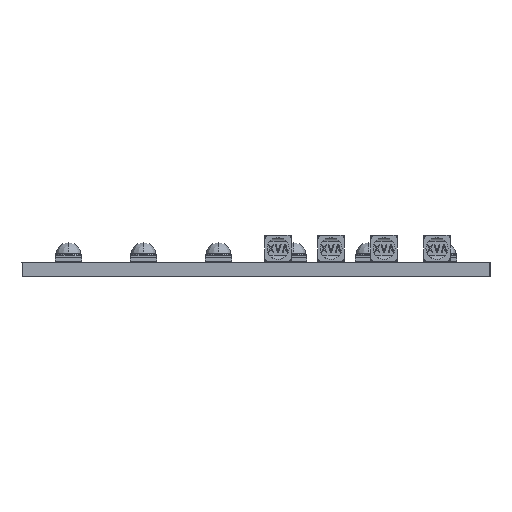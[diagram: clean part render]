
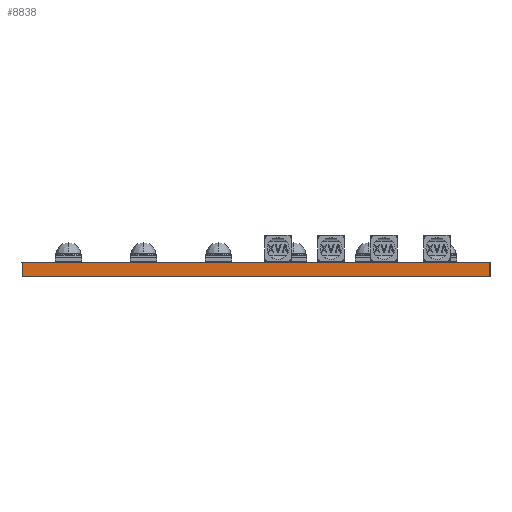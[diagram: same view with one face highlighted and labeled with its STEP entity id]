
A CAD part, left-side view. The second image highlights one B-rep face of the part: STEP entity #8838.
In plain terms, the highlighted planar face has unit normal (-1, 0, 0).
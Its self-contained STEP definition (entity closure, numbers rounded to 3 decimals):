
#3354=CARTESIAN_POINT('Line Origine',(0.,26.5,0.)) ;
#3358=CARTESIAN_POINT('Vertex',(0.,0.,0.)) ;
#3360=CARTESIAN_POINT('Vertex',(0.,53.,0.)) ;
#5414=CARTESIAN_POINT('Vertex',(0.,53.,-1.6)) ;
#5475=CARTESIAN_POINT('Vertex',(0.,0.,-1.6)) ;
#5478=CARTESIAN_POINT('Line Origine',(0.,26.5,-1.6)) ;
#5482=CARTESIAN_POINT('Vertex',(0.,31.6,-1.6)) ;
#5520=CARTESIAN_POINT('Vertex',(0.,41.6,-1.6)) ;
#5523=CARTESIAN_POINT('Line Origine',(0.,26.5,-1.6)) ;
#8794=CARTESIAN_POINT('Axis2P3D Location',(0.,41.6,-1.5)) ;
#8799=CARTESIAN_POINT('Line Origine',(0.,41.6,-1.575)) ;
#8803=CARTESIAN_POINT('Vertex',(0.,41.6,-1.55)) ;
#8806=CARTESIAN_POINT('Line Origine',(0.,36.6,-1.55)) ;
#8810=CARTESIAN_POINT('Vertex',(0.,31.6,-1.55)) ;
#8813=CARTESIAN_POINT('Line Origine',(0.,31.6,-1.575)) ;
#8818=CARTESIAN_POINT('Line Origine',(0.,0.,-0.8)) ;
#8823=CARTESIAN_POINT('Line Origine',(0.,53.,-0.8)) ;
#3356=VECTOR('Line Direction',#3355,1.) ;
#5480=VECTOR('Line Direction',#5479,1.) ;
#5525=VECTOR('Line Direction',#5524,1.) ;
#8801=VECTOR('Line Direction',#8800,1.) ;
#8808=VECTOR('Line Direction',#8807,1.) ;
#8815=VECTOR('Line Direction',#8814,1.) ;
#8820=VECTOR('Line Direction',#8819,1.) ;
#8825=VECTOR('Line Direction',#8824,1.) ;
#3355=DIRECTION('Vector Direction',(0.,1.,0.)) ;
#5479=DIRECTION('Vector Direction',(0.,1.,0.)) ;
#5524=DIRECTION('Vector Direction',(0.,1.,0.)) ;
#8795=DIRECTION('Axis2P3D Direction',(1.,0.,-0.)) ;
#8796=DIRECTION('Axis2P3D XDirection',(0.,1.,0.)) ;
#8800=DIRECTION('Vector Direction',(0.,0.,1.)) ;
#8807=DIRECTION('Vector Direction',(0.,-1.,0.)) ;
#8814=DIRECTION('Vector Direction',(0.,0.,1.)) ;
#8819=DIRECTION('Vector Direction',(0.,0.,1.)) ;
#8824=DIRECTION('Vector Direction',(0.,0.,1.)) ;
#8797=AXIS2_PLACEMENT_3D('Plane Axis2P3D',#8794,#8795,#8796) ;
#3357=LINE('Line',#3354,#3356) ;
#5481=LINE('Line',#5478,#5480) ;
#5526=LINE('Line',#5523,#5525) ;
#8802=LINE('Line',#8799,#8801) ;
#8809=LINE('Line',#8806,#8808) ;
#8816=LINE('Line',#8813,#8815) ;
#8821=LINE('Line',#8818,#8820) ;
#8826=LINE('Line',#8823,#8825) ;
#8798=PLANE('',#8797) ;
#3362=EDGE_CURVE('',#3359,#3361,#3357,.T.) ;
#5484=EDGE_CURVE('',#5483,#5476,#5481,.F.) ;
#5527=EDGE_CURVE('',#5415,#5521,#5526,.F.) ;
#8805=EDGE_CURVE('',#5521,#8804,#8802,.T.) ;
#8812=EDGE_CURVE('',#8804,#8811,#8809,.T.) ;
#8817=EDGE_CURVE('',#5483,#8811,#8816,.T.) ;
#8822=EDGE_CURVE('',#5476,#3359,#8821,.T.) ;
#8827=EDGE_CURVE('',#5415,#3361,#8826,.T.) ;
#8828=EDGE_LOOP('',(#8829,#8830,#8831,#8832,#8833,#8834,#8835,#8836)) ;
#8829=ORIENTED_EDGE('',*,*,#8805,.T.) ;
#8830=ORIENTED_EDGE('',*,*,#8812,.T.) ;
#8831=ORIENTED_EDGE('',*,*,#8817,.F.) ;
#8832=ORIENTED_EDGE('',*,*,#5484,.T.) ;
#8833=ORIENTED_EDGE('',*,*,#8822,.T.) ;
#8834=ORIENTED_EDGE('',*,*,#3362,.T.) ;
#8835=ORIENTED_EDGE('',*,*,#8827,.F.) ;
#8836=ORIENTED_EDGE('',*,*,#5527,.T.) ;
#3359=VERTEX_POINT('',#3358) ;
#3361=VERTEX_POINT('',#3360) ;
#5415=VERTEX_POINT('',#5414) ;
#5476=VERTEX_POINT('',#5475) ;
#5483=VERTEX_POINT('',#5482) ;
#5521=VERTEX_POINT('',#5520) ;
#8804=VERTEX_POINT('',#8803) ;
#8811=VERTEX_POINT('',#8810) ;
#8838=ADVANCED_FACE('MANIFOLD_SOLID_BREP #18749',(#8837),#8798,.F.) ;
#8837=FACE_OUTER_BOUND('',#8828,.T.) ;
